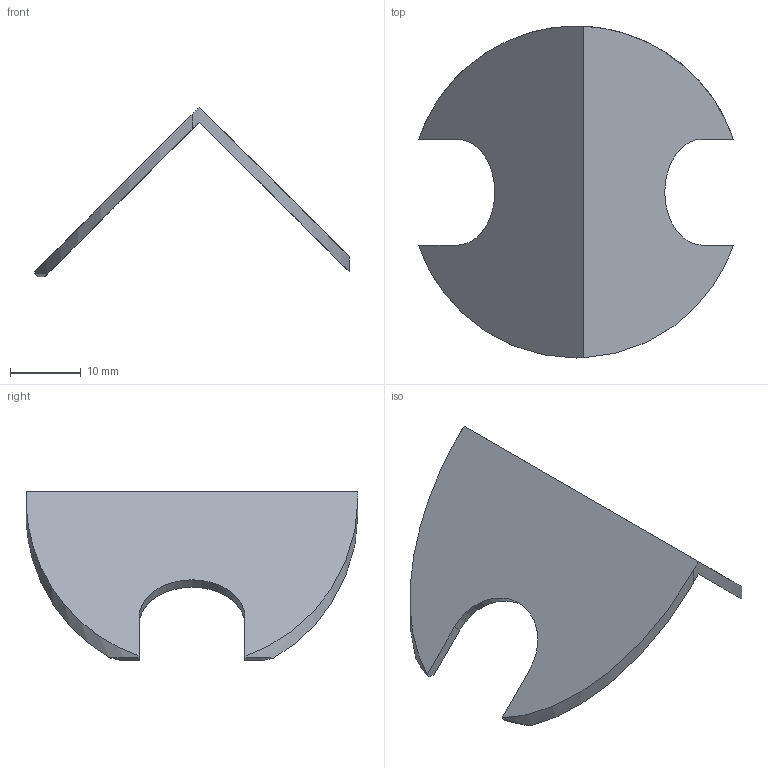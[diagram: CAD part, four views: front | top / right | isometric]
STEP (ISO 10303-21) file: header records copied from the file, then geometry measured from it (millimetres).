
FILE_DESCRIPTION(('FreeCAD Model'),'2;1');
FILE_NAME('Open CASCADE Shape Model','2024-11-22T17:57:04',(''),(''), 'Open CASCADE STEP processor 7.8','FreeCAD','Unknown');
FILE_SCHEMA(('AUTOMOTIVE_DESIGN { 1 0 10303 214 1 1 1 1 }'));
Length unit declared in the file: millimetre
Products named in the file (1): Common
Bounding box: 44.54 x 47 x 24.06 mm (x, y, z)
Volume: 3012.3 mm3; surface area: 4374.1 mm2
Topology: 1 solids, 1 shells, 20 faces, 54 edges, 36 vertices
Faces by surface type: plane 12, cylinder 6, extrusion 2
Entity records: 683 total; most frequent: CARTESIAN_POINT 139, DIRECTION 111, ORIENTED_EDGE 108, EDGE_CURVE 54, AXIS2_PLACEMENT_3D 38, VERTEX_POINT 36, VECTOR 35, LINE 33
